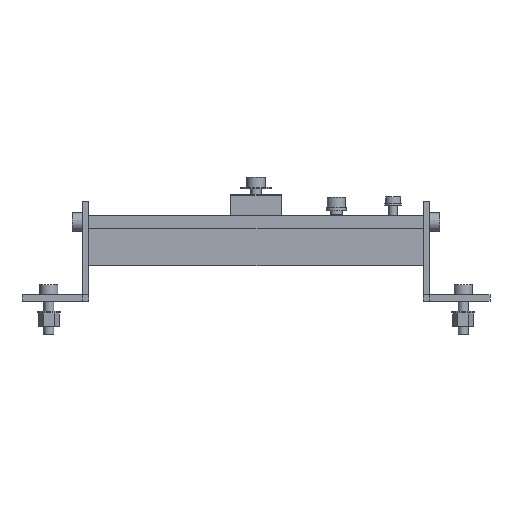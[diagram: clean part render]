
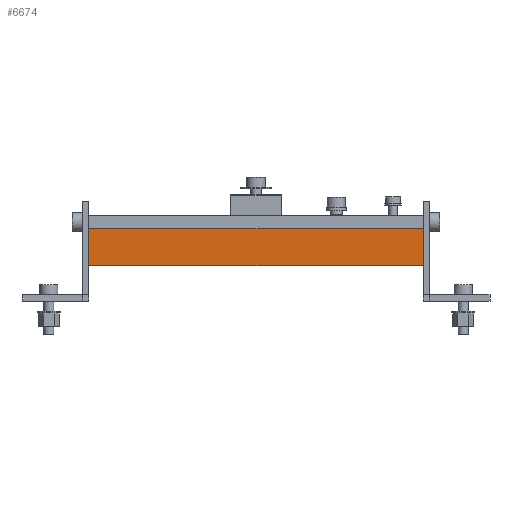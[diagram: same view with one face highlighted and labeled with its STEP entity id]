
A CAD part, front view. The second image highlights one B-rep face of the part: STEP entity #6674.
In plain terms, the highlighted planar face has unit normal (0, -1, 0).
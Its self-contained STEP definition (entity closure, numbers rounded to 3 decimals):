
#1351 = VERTEX_POINT('',#1352);
#1352 = CARTESIAN_POINT('',(-50.,-86.85,-11.9));
#1366 = PLANE('',#1367);
#1367 = AXIS2_PLACEMENT_3D('',#1368,#1369,#1370);
#1368 = CARTESIAN_POINT('',(-50.,-85.15,-22.9));
#1369 = DIRECTION('',(1.,0.,-0.));
#1370 = DIRECTION('',(0.,0.,-1.));
#1394 = PLANE('',#1395);
#1395 = AXIS2_PLACEMENT_3D('',#1396,#1397,#1398);
#1396 = CARTESIAN_POINT('',(-50.,12.,-11.9));
#1397 = DIRECTION('',(0.,0.,1.));
#1398 = DIRECTION('',(-1.,0.,0.));
#1983 = EDGE_CURVE('',#1351,#1984,#1986,.T.);
#1984 = VERTEX_POINT('',#1985);
#1985 = CARTESIAN_POINT('',(50.,-86.85,-11.9));
#1986 = SURFACE_CURVE('',#1987,(#1991,#1998),.PCURVE_S1.);
#1987 = LINE('',#1988,#1989);
#1988 = CARTESIAN_POINT('',(-50.,-86.85,-11.9));
#1989 = VECTOR('',#1990,1.);
#1990 = DIRECTION('',(1.,0.,-0.));
#1991 = PCURVE('',#1394,#1992);
#1992 = DEFINITIONAL_REPRESENTATION('',(#1993),#1997);
#1993 = LINE('',#1994,#1995);
#1994 = CARTESIAN_POINT('',(-0.,98.85));
#1995 = VECTOR('',#1996,1.);
#1996 = DIRECTION('',(-1.,-0.));
#1997 = ( GEOMETRIC_REPRESENTATION_CONTEXT(2) 
PARAMETRIC_REPRESENTATION_CONTEXT() REPRESENTATION_CONTEXT('2D SPACE',''
  ) );
#1998 = PCURVE('',#1999,#2004);
#1999 = PLANE('',#2000);
#2000 = AXIS2_PLACEMENT_3D('',#2001,#2002,#2003);
#2001 = CARTESIAN_POINT('',(-50.,-86.85,-22.9));
#2002 = DIRECTION('',(0.,-1.,0.));
#2003 = DIRECTION('',(0.,0.,-1.));
#2004 = DEFINITIONAL_REPRESENTATION('',(#2005),#2009);
#2005 = LINE('',#2006,#2007);
#2006 = CARTESIAN_POINT('',(-11.,0.));
#2007 = VECTOR('',#2008,1.);
#2008 = DIRECTION('',(-0.,1.));
#2009 = ( GEOMETRIC_REPRESENTATION_CONTEXT(2) 
PARAMETRIC_REPRESENTATION_CONTEXT() REPRESENTATION_CONTEXT('2D SPACE',''
  ) );
#2141 = VERTEX_POINT('',#2142);
#2142 = CARTESIAN_POINT('',(-50.,-86.85,-22.9));
#2156 = PLANE('',#2157);
#2157 = AXIS2_PLACEMENT_3D('',#2158,#2159,#2160);
#2158 = CARTESIAN_POINT('',(-50.,-85.15,-22.9));
#2159 = DIRECTION('',(0.,0.,1.));
#2160 = DIRECTION('',(-1.,0.,0.));
#2168 = EDGE_CURVE('',#2141,#1351,#2169,.T.);
#2169 = SURFACE_CURVE('',#2170,(#2174,#2181),.PCURVE_S1.);
#2170 = LINE('',#2171,#2172);
#2171 = CARTESIAN_POINT('',(-50.,-86.85,-22.9));
#2172 = VECTOR('',#2173,1.);
#2173 = DIRECTION('',(0.,0.,1.));
#2174 = PCURVE('',#1366,#2175);
#2175 = DEFINITIONAL_REPRESENTATION('',(#2176),#2180);
#2176 = LINE('',#2177,#2178);
#2177 = CARTESIAN_POINT('',(-0.,-1.7));
#2178 = VECTOR('',#2179,1.);
#2179 = DIRECTION('',(-1.,0.));
#2180 = ( GEOMETRIC_REPRESENTATION_CONTEXT(2) 
PARAMETRIC_REPRESENTATION_CONTEXT() REPRESENTATION_CONTEXT('2D SPACE',''
  ) );
#2181 = PCURVE('',#1999,#2182);
#2182 = DEFINITIONAL_REPRESENTATION('',(#2183),#2187);
#2183 = LINE('',#2184,#2185);
#2184 = CARTESIAN_POINT('',(-0.,0.));
#2185 = VECTOR('',#2186,1.);
#2186 = DIRECTION('',(-1.,0.));
#2187 = ( GEOMETRIC_REPRESENTATION_CONTEXT(2) 
PARAMETRIC_REPRESENTATION_CONTEXT() REPRESENTATION_CONTEXT('2D SPACE',''
  ) );
#6156 = PLANE('',#6157);
#6157 = AXIS2_PLACEMENT_3D('',#6158,#6159,#6160);
#6158 = CARTESIAN_POINT('',(50.,-85.15,-22.9));
#6159 = DIRECTION('',(1.,0.,-0.));
#6160 = DIRECTION('',(0.,0.,-1.));
#6674 = ADVANCED_FACE('',(#6675),#1999,.T.);
#6675 = FACE_BOUND('',#6676,.F.);
#6676 = EDGE_LOOP('',(#6677,#6700,#6701,#6702));
#6677 = ORIENTED_EDGE('',*,*,#6678,.F.);
#6678 = EDGE_CURVE('',#2141,#6679,#6681,.T.);
#6679 = VERTEX_POINT('',#6680);
#6680 = CARTESIAN_POINT('',(50.,-86.85,-22.9));
#6681 = SURFACE_CURVE('',#6682,(#6686,#6693),.PCURVE_S1.);
#6682 = LINE('',#6683,#6684);
#6683 = CARTESIAN_POINT('',(-50.,-86.85,-22.9));
#6684 = VECTOR('',#6685,1.);
#6685 = DIRECTION('',(1.,0.,-0.));
#6686 = PCURVE('',#1999,#6687);
#6687 = DEFINITIONAL_REPRESENTATION('',(#6688),#6692);
#6688 = LINE('',#6689,#6690);
#6689 = CARTESIAN_POINT('',(-0.,0.));
#6690 = VECTOR('',#6691,1.);
#6691 = DIRECTION('',(-0.,1.));
#6692 = ( GEOMETRIC_REPRESENTATION_CONTEXT(2) 
PARAMETRIC_REPRESENTATION_CONTEXT() REPRESENTATION_CONTEXT('2D SPACE',''
  ) );
#6693 = PCURVE('',#2156,#6694);
#6694 = DEFINITIONAL_REPRESENTATION('',(#6695),#6699);
#6695 = LINE('',#6696,#6697);
#6696 = CARTESIAN_POINT('',(-0.,1.7));
#6697 = VECTOR('',#6698,1.);
#6698 = DIRECTION('',(-1.,0.));
#6699 = ( GEOMETRIC_REPRESENTATION_CONTEXT(2) 
PARAMETRIC_REPRESENTATION_CONTEXT() REPRESENTATION_CONTEXT('2D SPACE',''
  ) );
#6700 = ORIENTED_EDGE('',*,*,#2168,.T.);
#6701 = ORIENTED_EDGE('',*,*,#1983,.T.);
#6702 = ORIENTED_EDGE('',*,*,#6703,.F.);
#6703 = EDGE_CURVE('',#6679,#1984,#6704,.T.);
#6704 = SURFACE_CURVE('',#6705,(#6709,#6716),.PCURVE_S1.);
#6705 = LINE('',#6706,#6707);
#6706 = CARTESIAN_POINT('',(50.,-86.85,-22.9));
#6707 = VECTOR('',#6708,1.);
#6708 = DIRECTION('',(0.,0.,1.));
#6709 = PCURVE('',#1999,#6710);
#6710 = DEFINITIONAL_REPRESENTATION('',(#6711),#6715);
#6711 = LINE('',#6712,#6713);
#6712 = CARTESIAN_POINT('',(-0.,100.));
#6713 = VECTOR('',#6714,1.);
#6714 = DIRECTION('',(-1.,0.));
#6715 = ( GEOMETRIC_REPRESENTATION_CONTEXT(2) 
PARAMETRIC_REPRESENTATION_CONTEXT() REPRESENTATION_CONTEXT('2D SPACE',''
  ) );
#6716 = PCURVE('',#6156,#6717);
#6717 = DEFINITIONAL_REPRESENTATION('',(#6718),#6722);
#6718 = LINE('',#6719,#6720);
#6719 = CARTESIAN_POINT('',(-0.,-1.7));
#6720 = VECTOR('',#6721,1.);
#6721 = DIRECTION('',(-1.,0.));
#6722 = ( GEOMETRIC_REPRESENTATION_CONTEXT(2) 
PARAMETRIC_REPRESENTATION_CONTEXT() REPRESENTATION_CONTEXT('2D SPACE',''
  ) );
